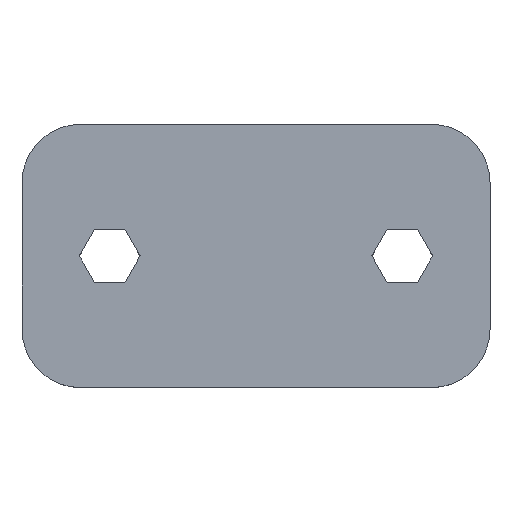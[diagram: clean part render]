
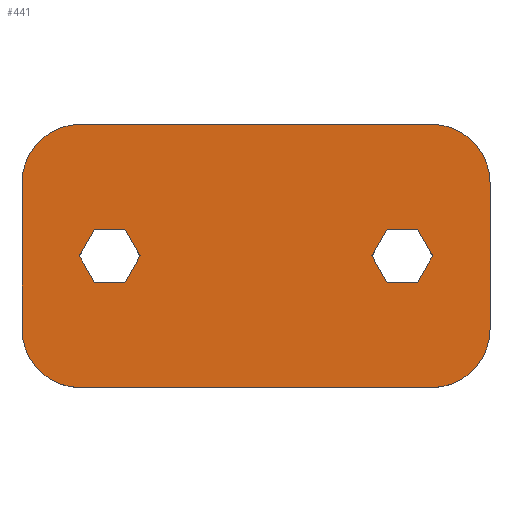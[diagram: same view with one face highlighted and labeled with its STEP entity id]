
A CAD part, top view. The second image highlights one B-rep face of the part: STEP entity #441.
In plain terms, the highlighted planar face has unit normal (0, 0, 1).
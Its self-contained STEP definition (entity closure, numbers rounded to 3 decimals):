
#17=FACE_BOUND('',#76,.T.);
#18=FACE_BOUND('',#77,.T.);
#19=CIRCLE('',#470,2.);
#24=CIRCLE('',#478,2.);
#25=CIRCLE('',#482,2.);
#26=CIRCLE('',#485,2.);
#51=FACE_OUTER_BOUND('',#75,.T.);
#75=EDGE_LOOP('',(#379,#380,#381,#382,#383,#384,#385,#386));
#76=EDGE_LOOP('',(#387,#388,#389,#390,#391,#392));
#77=EDGE_LOOP('',(#393,#394,#395,#396,#397,#398));
#81=LINE('',#609,#133);
#84=LINE('',#615,#136);
#87=LINE('',#621,#139);
#90=LINE('',#627,#142);
#93=LINE('',#633,#145);
#96=LINE('',#637,#148);
#99=LINE('',#645,#151);
#102=LINE('',#651,#154);
#105=LINE('',#657,#157);
#108=LINE('',#663,#160);
#111=LINE('',#669,#163);
#114=LINE('',#673,#166);
#119=LINE('',#688,#171);
#125=LINE('',#709,#177);
#127=LINE('',#712,#179);
#129=LINE('',#719,#181);
#133=VECTOR('',#493,10.);
#136=VECTOR('',#498,10.);
#139=VECTOR('',#503,10.);
#142=VECTOR('',#508,10.);
#145=VECTOR('',#513,10.);
#148=VECTOR('',#518,10.);
#151=VECTOR('',#523,10.);
#154=VECTOR('',#528,10.);
#157=VECTOR('',#533,10.);
#160=VECTOR('',#538,10.);
#163=VECTOR('',#543,10.);
#166=VECTOR('',#548,10.);
#171=VECTOR('',#561,10.);
#177=VECTOR('',#581,10.);
#179=VECTOR('',#585,10.);
#181=VECTOR('',#593,10.);
#185=VERTEX_POINT('',#606);
#186=VERTEX_POINT('',#608);
#188=VERTEX_POINT('',#614);
#190=VERTEX_POINT('',#620);
#192=VERTEX_POINT('',#626);
#194=VERTEX_POINT('',#632);
#197=VERTEX_POINT('',#642);
#198=VERTEX_POINT('',#644);
#200=VERTEX_POINT('',#650);
#202=VERTEX_POINT('',#656);
#204=VERTEX_POINT('',#662);
#206=VERTEX_POINT('',#668);
#207=VERTEX_POINT('',#675);
#208=VERTEX_POINT('',#676);
#212=VERTEX_POINT('',#686);
#218=VERTEX_POINT('',#702);
#219=VERTEX_POINT('',#703);
#220=VERTEX_POINT('',#708);
#221=VERTEX_POINT('',#714);
#222=VERTEX_POINT('',#718);
#225=EDGE_CURVE('',#186,#185,#81,.T.);
#228=EDGE_CURVE('',#188,#186,#84,.T.);
#231=EDGE_CURVE('',#190,#188,#87,.T.);
#234=EDGE_CURVE('',#192,#190,#90,.T.);
#237=EDGE_CURVE('',#194,#192,#93,.T.);
#240=EDGE_CURVE('',#185,#194,#96,.T.);
#243=EDGE_CURVE('',#198,#197,#99,.T.);
#246=EDGE_CURVE('',#200,#198,#102,.T.);
#249=EDGE_CURVE('',#202,#200,#105,.T.);
#252=EDGE_CURVE('',#204,#202,#108,.T.);
#255=EDGE_CURVE('',#206,#204,#111,.T.);
#258=EDGE_CURVE('',#197,#206,#114,.T.);
#259=EDGE_CURVE('',#207,#208,#19,.T.);
#265=EDGE_CURVE('',#207,#212,#119,.T.);
#272=EDGE_CURVE('',#218,#219,#24,.T.);
#275=EDGE_CURVE('',#219,#220,#125,.T.);
#277=EDGE_CURVE('',#208,#218,#127,.T.);
#278=EDGE_CURVE('',#220,#221,#25,.T.);
#280=EDGE_CURVE('',#221,#222,#129,.T.);
#282=EDGE_CURVE('',#222,#212,#26,.T.);
#379=ORIENTED_EDGE('',*,*,#259,.F.);
#380=ORIENTED_EDGE('',*,*,#265,.T.);
#381=ORIENTED_EDGE('',*,*,#282,.F.);
#382=ORIENTED_EDGE('',*,*,#280,.F.);
#383=ORIENTED_EDGE('',*,*,#278,.F.);
#384=ORIENTED_EDGE('',*,*,#275,.F.);
#385=ORIENTED_EDGE('',*,*,#272,.F.);
#386=ORIENTED_EDGE('',*,*,#277,.F.);
#387=ORIENTED_EDGE('',*,*,#234,.T.);
#388=ORIENTED_EDGE('',*,*,#231,.T.);
#389=ORIENTED_EDGE('',*,*,#228,.T.);
#390=ORIENTED_EDGE('',*,*,#225,.T.);
#391=ORIENTED_EDGE('',*,*,#240,.T.);
#392=ORIENTED_EDGE('',*,*,#237,.T.);
#393=ORIENTED_EDGE('',*,*,#252,.T.);
#394=ORIENTED_EDGE('',*,*,#249,.T.);
#395=ORIENTED_EDGE('',*,*,#246,.T.);
#396=ORIENTED_EDGE('',*,*,#243,.T.);
#397=ORIENTED_EDGE('',*,*,#258,.T.);
#398=ORIENTED_EDGE('',*,*,#255,.T.);
#420=PLANE('',#484);
#441=ADVANCED_FACE('',(#51,#17,#18),#420,.F.);
#470=AXIS2_PLACEMENT_3D('',#677,#551,#552);
#478=AXIS2_PLACEMENT_3D('',#704,#575,#576);
#482=AXIS2_PLACEMENT_3D('',#715,#588,#589);
#484=AXIS2_PLACEMENT_3D('',#721,#595,#596);
#485=AXIS2_PLACEMENT_3D('',#722,#597,#598);
#493=DIRECTION('',(-0.5,-0.866,0.));
#498=DIRECTION('',(0.5,-0.866,0.));
#503=DIRECTION('',(1.,0.,0.));
#508=DIRECTION('',(0.5,0.866,0.));
#513=DIRECTION('',(-0.5,0.866,0.));
#518=DIRECTION('',(-1.,0.,0.));
#523=DIRECTION('',(-0.5,-0.866,0.));
#528=DIRECTION('',(0.5,-0.866,0.));
#533=DIRECTION('',(1.,0.,0.));
#538=DIRECTION('',(0.5,0.866,0.));
#543=DIRECTION('',(-0.5,0.866,0.));
#548=DIRECTION('',(-1.,0.,0.));
#551=DIRECTION('center_axis',(0.,0.,
-1.));
#552=DIRECTION('ref_axis',(-0.707,-0.707,0.));
#561=DIRECTION('',(1.,0.,0.));
#575=DIRECTION('center_axis',(0.,0.,
-1.));
#576=DIRECTION('ref_axis',(-0.707,0.707,0.));
#581=DIRECTION('',(1.,0.,0.));
#585=DIRECTION('',(0.,1.,0.));
#588=DIRECTION('center_axis',(0.,0.,
-1.));
#589=DIRECTION('ref_axis',(0.707,0.707,0.));
#593=DIRECTION('',(0.,-1.,0.));
#595=DIRECTION('center_axis',(0.,0.,
-1.));
#596=DIRECTION('ref_axis',(1.,0.,0.));
#597=DIRECTION('center_axis',(0.,0.,
-1.));
#598=DIRECTION('ref_axis',(0.707,-0.707,0.));
#606=CARTESIAN_POINT('',(-4.48,18.8,-31.55));
#608=CARTESIAN_POINT('',(-3.961,19.7,-31.55));
#609=CARTESIAN_POINT('',(-3.466,20.558,-31.55));
#614=CARTESIAN_POINT('',(-4.48,20.6,-31.55));
#615=CARTESIAN_POINT('',(-3.725,19.292,-31.55));
#620=CARTESIAN_POINT('',(-5.52,20.6,-31.55));
#621=CARTESIAN_POINT('',(-2.76,20.6,-31.55));
#626=CARTESIAN_POINT('',(-6.039,19.7,-31.55));
#627=CARTESIAN_POINT('',(-5.284,21.008,-31.55));
#632=CARTESIAN_POINT('',(-5.52,18.8,-31.55));
#633=CARTESIAN_POINT('',(-5.025,17.942,-31.55));
#637=CARTESIAN_POINT('',(-2.24,18.8,-31.55));
#642=CARTESIAN_POINT('',(5.52,18.8,-31.55));
#644=CARTESIAN_POINT('',(6.039,19.7,-31.55));
#645=CARTESIAN_POINT('',(5.284,18.392,-31.55));
#650=CARTESIAN_POINT('',(5.52,20.6,-31.55));
#651=CARTESIAN_POINT('',(5.025,21.458,-31.55));
#656=CARTESIAN_POINT('',(4.48,20.6,-31.55));
#657=CARTESIAN_POINT('',(2.24,20.6,-31.55));
#662=CARTESIAN_POINT('',(3.961,19.7,-31.55));
#663=CARTESIAN_POINT('',(3.466,18.842,-31.55));
#668=CARTESIAN_POINT('',(4.48,18.8,-31.55));
#669=CARTESIAN_POINT('',(3.725,20.108,-31.55));
#673=CARTESIAN_POINT('',(2.76,18.8,-31.55));
#675=CARTESIAN_POINT('',(-6.,15.2,-31.55));
#676=CARTESIAN_POINT('',(-8.,17.2,-31.55));
#677=CARTESIAN_POINT('Origin',(-6.,17.2,-31.55));
#686=CARTESIAN_POINT('',(6.,15.2,-31.55));
#688=CARTESIAN_POINT('',(-8.,15.2,-31.55));
#702=CARTESIAN_POINT('',(-8.,22.2,-31.55));
#703=CARTESIAN_POINT('',(-6.,24.2,-31.55));
#704=CARTESIAN_POINT('Origin',(-6.,22.2,-31.55));
#708=CARTESIAN_POINT('',(6.,24.2,-31.55));
#709=CARTESIAN_POINT('',(-8.,24.2,-31.55));
#712=CARTESIAN_POINT('',(-8.,13.7,-31.55));
#714=CARTESIAN_POINT('',(8.,22.2,-31.55));
#715=CARTESIAN_POINT('Origin',(6.,22.2,-31.55));
#718=CARTESIAN_POINT('',(8.,17.2,-31.55));
#719=CARTESIAN_POINT('',(8.,22.2,-31.55));
#721=CARTESIAN_POINT('Origin',(0.,19.7,-31.55));
#722=CARTESIAN_POINT('Origin',(6.,17.2,-31.55));
